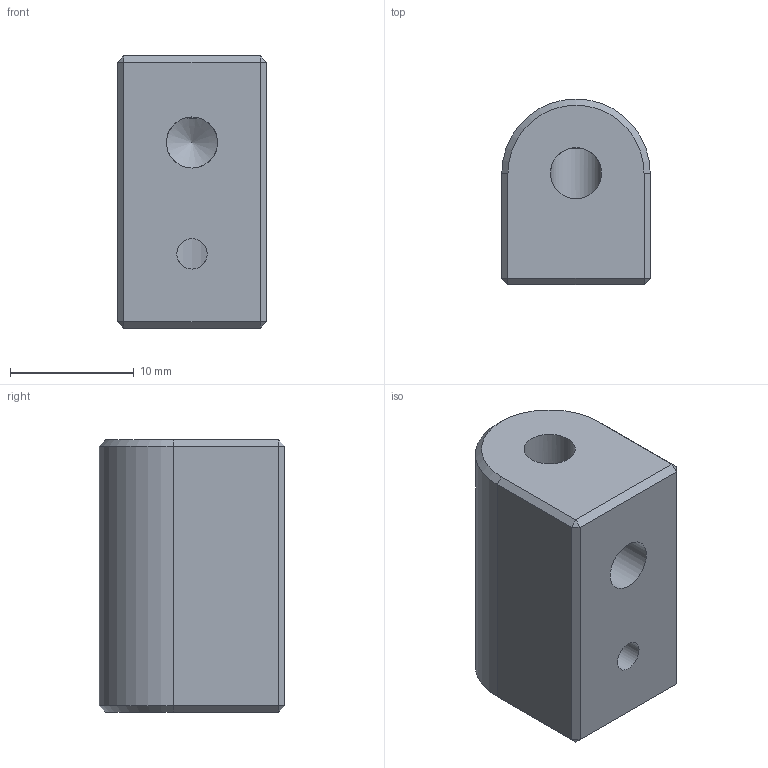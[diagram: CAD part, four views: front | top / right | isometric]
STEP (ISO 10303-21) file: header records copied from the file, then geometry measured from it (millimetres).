
FILE_DESCRIPTION(/* description */ (''),/* implementation_level */ '2;1');
FILE_NAME(/* name */ 'Vaccum suction cup M5 holder.stp',/* time_stamp */ '2023-10-17T09:46:37-04:00',/* author */ ('jcoulombe'),/* organization */ (''),/* preprocessor_version */ 'ST-DEVELOPER v20',/* originating_system */ 'Autodesk Inventor 2024',/* authorisation */ '');
FILE_SCHEMA (('AUTOMOTIVE_DESIGN { 1 0 10303 214 3 1 1 }'));
Length unit declared in the file: inch
Products named in the file (1): Vaccum suction cup M5 holder
Bounding box: 12 x 15 x 22 mm (x, y, z)
Volume: 2752.1 mm3; surface area: 1881.4 mm2
Topology: 1 solids, 1 shells, 27 faces, 58 edges, 33 vertices
Faces by surface type: plane 18, cylinder 6, cone 3
Full cylindrical faces by diameter (mm): 2.459 x1, 4.134 x2, 8 x1
Entity records: 795 total; most frequent: CARTESIAN_POINT 161, DIRECTION 124, ORIENTED_EDGE 114, EDGE_CURVE 57, AXIS2_PLACEMENT_3D 42, LINE 40, VECTOR 40, VERTEX_POINT 33
